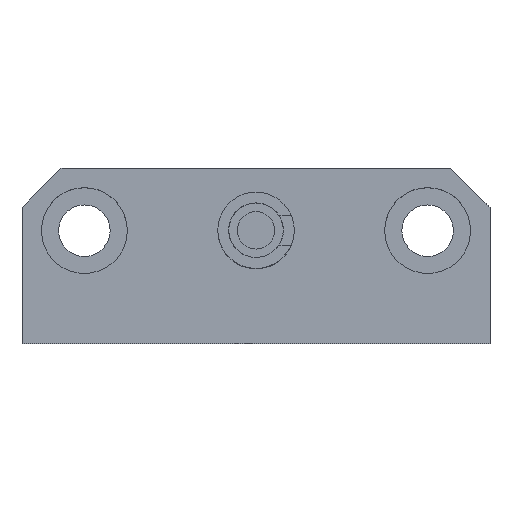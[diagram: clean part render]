
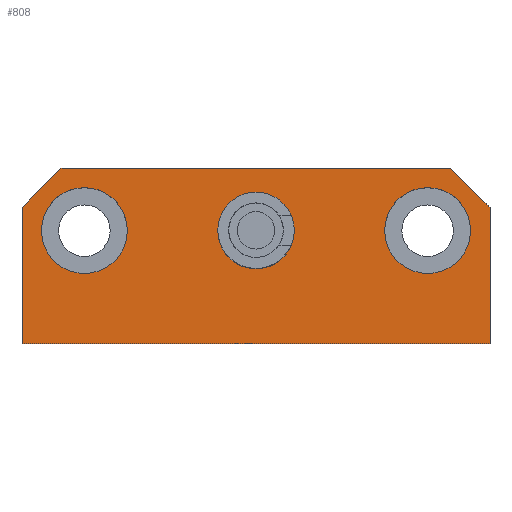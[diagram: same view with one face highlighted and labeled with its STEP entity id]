
A CAD part, top view. The second image highlights one B-rep face of the part: STEP entity #808.
In plain terms, the highlighted planar face has unit normal (0, 0, 1).
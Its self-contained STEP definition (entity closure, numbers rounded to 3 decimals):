
#9 = VERTEX_POINT ( 'NONE', #1223 ) ;
#11 = ORIENTED_EDGE ( 'NONE', *, *, #828, .F. ) ;
#21 = DIRECTION ( 'NONE',  ( 0., 0., 1. ) ) ;
#31 = EDGE_CURVE ( 'NONE', #854, #1305, #961, .T. ) ;
#33 = CARTESIAN_POINT ( 'NONE',  ( 27.5, 0., -26. ) ) ;
#40 = VERTEX_POINT ( 'NONE', #642 ) ;
#41 = EDGE_CURVE ( 'NONE', #1126, #802, #1274, .T. ) ;
#43 = ORIENTED_EDGE ( 'NONE', *, *, #1214, .F. ) ;
#48 = LINE ( 'NONE', #842, #610 ) ;
#90 = EDGE_CURVE ( 'NONE', #412, #1305, #1200, .T. ) ;
#110 = CARTESIAN_POINT ( 'NONE',  ( -25., 8., -26. ) ) ;
#132 = AXIS2_PLACEMENT_3D ( 'NONE', #877, #1150, #1290 ) ;
#178 = EDGE_CURVE ( 'NONE', #802, #1126, #366, .T. ) ;
#200 = CARTESIAN_POINT ( 'NONE',  ( -30., -14.5, -26. ) ) ;
#213 = DIRECTION ( 'NONE',  ( 1., 0., 0. ) ) ;
#216 = EDGE_LOOP ( 'NONE', ( #538, #1352 ) ) ;
#224 = DIRECTION ( 'NONE',  ( 0., 1., 0. ) ) ;
#259 = EDGE_CURVE ( 'NONE', #745, #9, #48, .T. ) ;
#270 = EDGE_LOOP ( 'NONE', ( #691, #363, #843, #1123, #325, #43 ) ) ;
#271 = CARTESIAN_POINT ( 'NONE',  ( 4.9, 0., -26. ) ) ;
#290 = DIRECTION ( 'NONE',  ( 1., 0., 0. ) ) ;
#293 = VECTOR ( 'NONE', #700, 1000. ) ;
#312 = VECTOR ( 'NONE', #1159, 1000. ) ;
#325 = ORIENTED_EDGE ( 'NONE', *, *, #90, .F. ) ;
#333 = DIRECTION ( 'NONE',  ( 1., 0., 0. ) ) ;
#355 = PLANE ( 'NONE',  #708 ) ;
#363 = ORIENTED_EDGE ( 'NONE', *, *, #259, .T. ) ;
#366 = CIRCLE ( 'NONE', #984, 4.9 ) ;
#369 = EDGE_CURVE ( 'NONE', #1258, #701, #1091, .T. ) ;
#392 = CARTESIAN_POINT ( 'NONE',  ( -16.5, 0., -26. ) ) ;
#404 = CARTESIAN_POINT ( 'NONE',  ( -30., 3., -26. ) ) ;
#412 = VERTEX_POINT ( 'NONE', #200 ) ;
#416 = CIRCLE ( 'NONE', #1296, 5.5 ) ;
#455 = DIRECTION ( 'NONE',  ( 0., 0., 1. ) ) ;
#502 = DIRECTION ( 'NONE',  ( 0., 0., 1. ) ) ;
#521 = CARTESIAN_POINT ( 'NONE',  ( 0., 0., -26. ) ) ;
#523 = CARTESIAN_POINT ( 'NONE',  ( -30., 8., -26. ) ) ;
#538 = ORIENTED_EDGE ( 'NONE', *, *, #996, .F. ) ;
#567 = DIRECTION ( 'NONE',  ( -1., 0., 0. ) ) ;
#585 = FACE_OUTER_BOUND ( 'NONE', #270, .T. ) ;
#593 = CARTESIAN_POINT ( 'NONE',  ( 30., 3., -26. ) ) ;
#610 = VECTOR ( 'NONE', #845, 1000. ) ;
#640 = DIRECTION ( 'NONE',  ( 0., 0., 1. ) ) ;
#642 = CARTESIAN_POINT ( 'NONE',  ( 30., -14.5, -26. ) ) ;
#651 = FACE_BOUND ( 'NONE', #216, .T. ) ;
#656 = FACE_BOUND ( 'NONE', #946, .T. ) ;
#664 = LINE ( 'NONE', #954, #312 ) ;
#666 = CARTESIAN_POINT ( 'NONE',  ( 30., 8., -26. ) ) ;
#682 = CARTESIAN_POINT ( 'NONE',  ( 30., 8., -26. ) ) ;
#691 = ORIENTED_EDGE ( 'NONE', *, *, #799, .F. ) ;
#699 = CARTESIAN_POINT ( 'NONE',  ( -4.9, 0., -26. ) ) ;
#700 = DIRECTION ( 'NONE',  ( 0., -1., 0. ) ) ;
#701 = VERTEX_POINT ( 'NONE', #392 ) ;
#708 = AXIS2_PLACEMENT_3D ( 'NONE', #761, #756, #567 ) ;
#713 = CIRCLE ( 'NONE', #132, 5.5 ) ;
#729 = ORIENTED_EDGE ( 'NONE', *, *, #970, .F. ) ;
#745 = VERTEX_POINT ( 'NONE', #593 ) ;
#748 = VECTOR ( 'NONE', #224, 1000. ) ;
#756 = DIRECTION ( 'NONE',  ( 0., 0., -1. ) ) ;
#761 = CARTESIAN_POINT ( 'NONE',  ( 0., 0., -26. ) ) ;
#764 = LINE ( 'NONE', #666, #293 ) ;
#774 = AXIS2_PLACEMENT_3D ( 'NONE', #1088, #455, #1184 ) ;
#785 = ORIENTED_EDGE ( 'NONE', *, *, #178, .F. ) ;
#799 = EDGE_CURVE ( 'NONE', #745, #40, #764, .T. ) ;
#802 = VERTEX_POINT ( 'NONE', #699 ) ;
#808 = ADVANCED_FACE ( 'NONE', ( #651, #656, #585, #1218 ), #355, .F. ) ;
#827 = VECTOR ( 'NONE', #1197, 1000. ) ;
#828 = EDGE_CURVE ( 'NONE', #851, #1054, #416, .T. ) ;
#842 = CARTESIAN_POINT ( 'NONE',  ( 30., 3., -26. ) ) ;
#843 = ORIENTED_EDGE ( 'NONE', *, *, #1038, .F. ) ;
#845 = DIRECTION ( 'NONE',  ( -0.707, 0.707, 0. ) ) ;
#851 = VERTEX_POINT ( 'NONE', #955 ) ;
#853 = AXIS2_PLACEMENT_3D ( 'NONE', #1230, #21, #333 ) ;
#854 = VERTEX_POINT ( 'NONE', #110 ) ;
#860 = VECTOR ( 'NONE', #1061, 1000. ) ;
#877 = CARTESIAN_POINT ( 'NONE',  ( 22., 0., -26. ) ) ;
#946 = EDGE_LOOP ( 'NONE', ( #1140, #785 ) ) ;
#954 = CARTESIAN_POINT ( 'NONE',  ( 30., -14.5, -26. ) ) ;
#955 = CARTESIAN_POINT ( 'NONE',  ( 16.5, 0., -26. ) ) ;
#961 = LINE ( 'NONE', #1003, #860 ) ;
#970 = EDGE_CURVE ( 'NONE', #1054, #851, #713, .T. ) ;
#984 = AXIS2_PLACEMENT_3D ( 'NONE', #521, #502, #1240 ) ;
#996 = EDGE_CURVE ( 'NONE', #701, #1258, #1363, .T. ) ;
#1003 = CARTESIAN_POINT ( 'NONE',  ( -25., 8., -26. ) ) ;
#1028 = CARTESIAN_POINT ( 'NONE',  ( -27.5, 0., -26. ) ) ;
#1038 = EDGE_CURVE ( 'NONE', #854, #9, #1232, .T. ) ;
#1054 = VERTEX_POINT ( 'NONE', #33 ) ;
#1061 = DIRECTION ( 'NONE',  ( -0.707, -0.707, 0. ) ) ;
#1068 = CARTESIAN_POINT ( 'NONE',  ( 0., 0., -26. ) ) ;
#1078 = DIRECTION ( 'NONE',  ( 0., 0., 1. ) ) ;
#1088 = CARTESIAN_POINT ( 'NONE',  ( -22., 0., -26. ) ) ;
#1091 = CIRCLE ( 'NONE', #853, 5.5 ) ;
#1093 = CARTESIAN_POINT ( 'NONE',  ( 22., 0., -26. ) ) ;
#1123 = ORIENTED_EDGE ( 'NONE', *, *, #31, .T. ) ;
#1125 = EDGE_LOOP ( 'NONE', ( #729, #11 ) ) ;
#1126 = VERTEX_POINT ( 'NONE', #271 ) ;
#1140 = ORIENTED_EDGE ( 'NONE', *, *, #41, .F. ) ;
#1150 = DIRECTION ( 'NONE',  ( 0., 0., 1. ) ) ;
#1159 = DIRECTION ( 'NONE',  ( -1., 0., 0. ) ) ;
#1161 = AXIS2_PLACEMENT_3D ( 'NONE', #1068, #1078, #290 ) ;
#1184 = DIRECTION ( 'NONE',  ( 1., 0., 0. ) ) ;
#1197 = DIRECTION ( 'NONE',  ( 1., 0., 0. ) ) ;
#1200 = LINE ( 'NONE', #523, #748 ) ;
#1214 = EDGE_CURVE ( 'NONE', #40, #412, #664, .T. ) ;
#1218 = FACE_BOUND ( 'NONE', #1125, .T. ) ;
#1223 = CARTESIAN_POINT ( 'NONE',  ( 25., 8., -26. ) ) ;
#1230 = CARTESIAN_POINT ( 'NONE',  ( -22., 0., -26. ) ) ;
#1232 = LINE ( 'NONE', #682, #827 ) ;
#1240 = DIRECTION ( 'NONE',  ( 1., 0., 0. ) ) ;
#1258 = VERTEX_POINT ( 'NONE', #1028 ) ;
#1274 = CIRCLE ( 'NONE', #1161, 4.9 ) ;
#1290 = DIRECTION ( 'NONE',  ( 1., 0., 0. ) ) ;
#1296 = AXIS2_PLACEMENT_3D ( 'NONE', #1093, #640, #213 ) ;
#1305 = VERTEX_POINT ( 'NONE', #404 ) ;
#1352 = ORIENTED_EDGE ( 'NONE', *, *, #369, .F. ) ;
#1363 = CIRCLE ( 'NONE', #774, 5.5 ) ;
